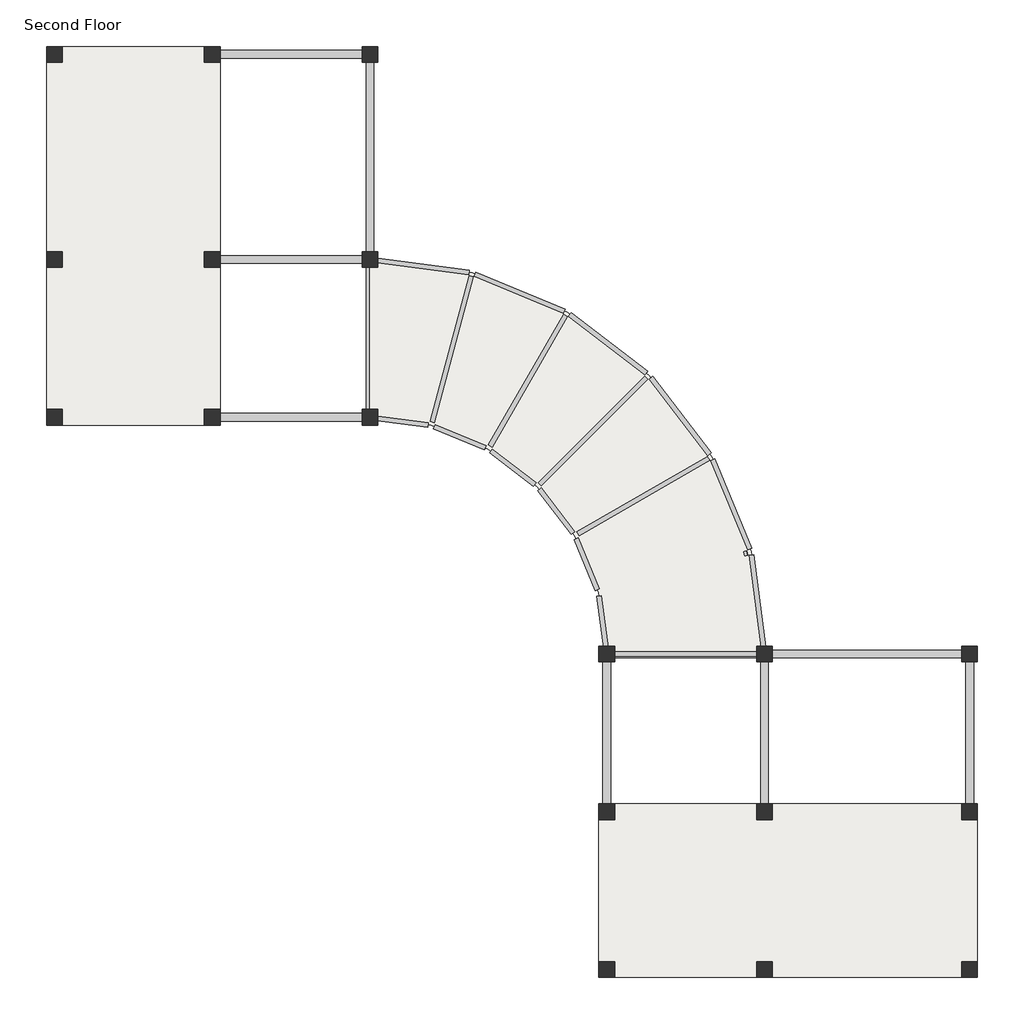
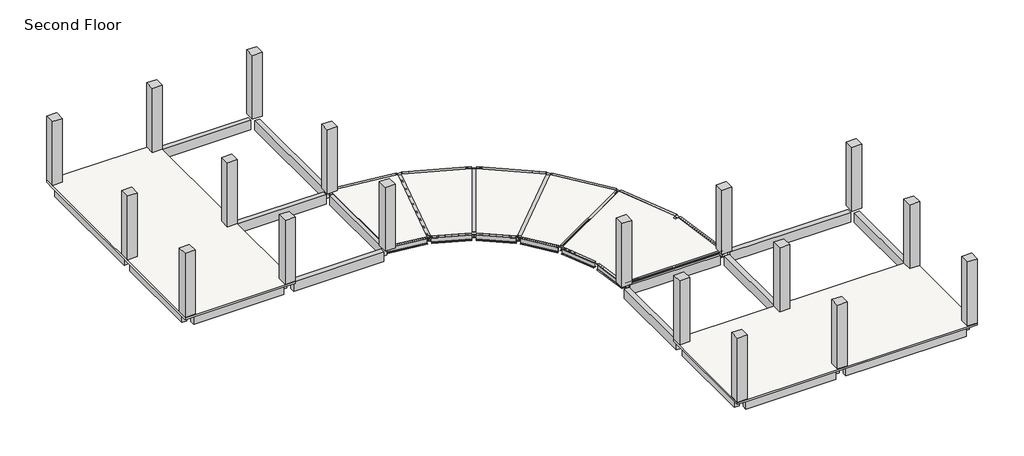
# One storey: 42 beams, 18 columns, 3 slabs.
"""IFC4 building model written with IfcOpenShell, lengths in millimetres."""

from ifc_helpers import new_model, si_unit, frame, origin, place, context, project, spatial, polyline, outline, extrude, faceted_brep, transform, mapped, element, save
from components import w_shapes_w14x30_2e673df6, w_shapes_w14x30_bed481f1, w_shapes_w14x30_237460b9, w_shapes_w14x30_b3bb4f38, w_shapes_w14x30_39967a85, w_shapes_w14x30_db228dd3, w_shapes_w14x30_47131812, w_shapes_w14x30_3b95b5f1, w_shapes_w14x30_4b075543

model = new_model("IFC4")

# Units and contexts
model_context = context("Model", 3, world=origin())
ifc_project = project(units=[si_unit("LENGTHUNIT", "METRE", prefix="MILLI")], contexts=[model_context])

# Site, building, storey
site = spatial("IfcSite", under=ifc_project)
building = spatial("IfcBuilding", under=site)
storey = spatial("IfcBuildingStorey", under=building, Name="Second Floor", Elevation=3048.0)

# Beams
placement = place(None, origin())
element("IfcBeam", 1, ObjectType="Concrete-Rectangular Beam : 12 x 24", at=placement, inside=storey, context=model_context, shape_type="SweptSolid", body=[
    extrude(outline(polyline([(-28941.182411, 12026.6448777), (-28941.182411, 11721.8448777), (-34427.582411, 11721.8448777), (-34427.582411, 12026.6448777), (-28941.182411, 12026.6448777)])), frame((0.0, 0.0, 2438.4), z_axis=(0.0, 0.0, 1.0), x_axis=(1.0, 0.0, 0.0)), (0.0, 0.0, 1.0), 609.6),
])
element("IfcBeam", 2, ObjectType="Concrete-Rectangular Beam : 12 x 24", at=placement, inside=storey, context=model_context, shape_type="SweptSolid", body=[
    extrude(outline(polyline([(-35037.182411, 12026.6448777), (-35037.182411, 11721.8448777), (-40523.582411, 11721.8448777), (-40523.582411, 12026.6448777), (-35037.182411, 12026.6448777)])), frame((0.0, 0.0, 2438.4), z_axis=(0.0, 0.0, 1.0), x_axis=(1.0, 0.0, 0.0)), (0.0, 0.0, 1.0), 609.6),
])
element("IfcBeam", 3, ObjectType="Concrete-Rectangular Beam : 12 x 24", at=placement, inside=storey, context=model_context, shape_type="SweptSolid", body=[
    extrude(outline(polyline([(-28941.182411, -1994.1551223), (-28941.182411, -2298.9551223), (-34427.582411, -2298.9551223), (-34427.582411, -1994.1551223), (-28941.182411, -1994.1551223)])), frame((0.0, 0.0, 2438.4), z_axis=(0.0, 0.0, 1.0), x_axis=(1.0, 0.0, 0.0)), (0.0, 0.0, 1.0), 609.6),
])
element("IfcBeam", 4, ObjectType="Concrete-Rectangular Beam : 12 x 24", at=placement, inside=storey, context=model_context, shape_type="SweptSolid", body=[
    extrude(outline(polyline([(-35037.182411, -1994.1551223), (-35037.182411, -2298.9551223), (-40523.582411, -2298.9551223), (-40523.582411, -1994.1551223), (-35037.182411, -1994.1551223)])), frame((0.0, 0.0, 2438.4), z_axis=(0.0, 0.0, 1.0), x_axis=(1.0, 0.0, 0.0)), (0.0, 0.0, 1.0), 609.6),
])
element("IfcBeam", 5, ObjectType="Concrete-Rectangular Beam : 12 x 24", at=placement, inside=storey, context=model_context, shape_type="SweptSolid", body=[
    extrude(outline(polyline([(-28941.182411, 4101.8448777), (-28941.182411, 3797.0448777), (-34427.582411, 3797.0448777), (-34427.582411, 4101.8448777), (-28941.182411, 4101.8448777)])), frame((0.0, 0.0, 2438.4), z_axis=(0.0, 0.0, 1.0), x_axis=(1.0, 0.0, 0.0)), (0.0, 0.0, 1.0), 609.6),
])
element("IfcBeam", 6, ObjectType="Concrete-Rectangular Beam : 12 x 24", at=placement, inside=storey, context=model_context, shape_type="SweptSolid", body=[
    extrude(outline(polyline([(-35037.182411, 4101.8448777), (-35037.182411, 3797.0448777), (-40523.582411, 3797.0448777), (-40523.582411, 4101.8448777), (-35037.182411, 4101.8448777)])), frame((0.0, 0.0, 2438.4), z_axis=(0.0, 0.0, 1.0), x_axis=(1.0, 0.0, 0.0)), (0.0, 0.0, 1.0), 609.6),
])
element("IfcBeam", 7, ObjectType="Concrete-Rectangular Beam : 12 x 24", at=placement, inside=storey, context=model_context, shape_type="SweptSolid", body=[
    extrude(outline(polyline([(-28483.982411, -1841.7551223), (-28788.782411, -1841.7551223), (-28788.782411, 3644.6448777), (-28483.982411, 3644.6448777), (-28483.982411, -1841.7551223)])), frame((0.0, 0.0, 2438.4), z_axis=(0.0, 0.0, 1.0), x_axis=(1.0, 0.0, 0.0)), (0.0, 0.0, 1.0), 609.6),
])
element("IfcBeam", 8, ObjectType="Concrete-Rectangular Beam : 12 x 24", at=placement, inside=storey, context=model_context, shape_type="SweptSolid", body=[
    extrude(outline(polyline([(-28483.982411, 4254.2448777), (-28788.782411, 4254.2448777), (-28788.782411, 11569.4448777), (-28483.982411, 11569.4448777), (-28483.982411, 4254.2448777)])), frame((0.0, 0.0, 2438.4), z_axis=(0.0, 0.0, 1.0), x_axis=(1.0, 0.0, 0.0)), (0.0, 0.0, 1.0), 609.6),
])
element("IfcBeam", 9, ObjectType="Concrete-Rectangular Beam : 12 x 24", at=placement, inside=storey, context=model_context, shape_type="SweptSolid", body=[
    extrude(outline(polyline([(-34579.982411, 4254.2448777), (-34884.782411, 4254.2448777), (-34884.782411, 11569.4448777), (-34579.982411, 11569.4448777), (-34579.982411, 4254.2448777)])), frame((0.0, 0.0, 2438.4), z_axis=(0.0, 0.0, 1.0), x_axis=(1.0, 0.0, 0.0)), (0.0, 0.0, 1.0), 609.6),
])
element("IfcBeam", 10, ObjectType="Concrete-Rectangular Beam : 12 x 24", at=placement, inside=storey, context=model_context, shape_type="SweptSolid", body=[
    extrude(outline(polyline([(-34579.982411, -1841.7551223), (-34884.782411, -1841.7551223), (-34884.782411, 3644.6448777), (-34579.982411, 3644.6448777), (-34579.982411, -1841.7551223)])), frame((0.0, 0.0, 2438.4), z_axis=(0.0, 0.0, 1.0), x_axis=(1.0, 0.0, 0.0)), (0.0, 0.0, 1.0), 609.6),
])
element("IfcBeam", 11, ObjectType="Concrete-Rectangular Beam : 12 x 24", at=placement, inside=storey, context=model_context, shape_type="SweptSolid", body=[
    extrude(outline(polyline([(-40675.982411, 4254.2448777), (-40980.782411, 4254.2448777), (-40980.782411, 11569.4448777), (-40675.982411, 11569.4448777), (-40675.982411, 4254.2448777)])), frame((0.0, 0.0, 2438.4), z_axis=(0.0, 0.0, 1.0), x_axis=(1.0, 0.0, 0.0)), (0.0, 0.0, 1.0), 609.6),
])
element("IfcBeam", 12, ObjectType="Concrete-Rectangular Beam : 12 x 24", at=placement, inside=storey, context=model_context, shape_type="SweptSolid", body=[
    extrude(outline(polyline([(-40675.982411, -1841.7551223), (-40980.782411, -1841.7551223), (-40980.782411, 3644.6448777), (-40675.982411, 3644.6448777), (-40675.982411, -1841.7551223)])), frame((0.0, 0.0, 2438.4), z_axis=(0.0, 0.0, 1.0), x_axis=(1.0, 0.0, 0.0)), (0.0, 0.0, 1.0), 609.6),
])
element("IfcBeam", 13, ObjectType="Concrete-Rectangular Beam : 12 x 24", at=placement, inside=storey, context=model_context, shape_type="SweptSolid", body=[
    extrude(outline(polyline([(-5623.982411, -11595.3551223), (-5319.182411, -11595.3551223), (-5319.182411, -17081.7551223), (-5623.982411, -17081.7551223), (-5623.982411, -11595.3551223)])), frame((0.0, 0.0, 2438.4), z_axis=(0.0, 0.0, 1.0), x_axis=(1.0, 0.0, 0.0)), (0.0, 0.0, 1.0), 609.6),
])
element("IfcBeam", 14, ObjectType="Concrete-Rectangular Beam : 12 x 24", at=placement, inside=storey, context=model_context, shape_type="SweptSolid", body=[
    extrude(outline(polyline([(-5623.982411, -17691.3551223), (-5319.182411, -17691.3551223), (-5319.182411, -23177.7551223), (-5623.982411, -23177.7551223), (-5623.982411, -17691.3551223)])), frame((0.0, 0.0, 2438.4), z_axis=(0.0, 0.0, 1.0), x_axis=(1.0, 0.0, 0.0)), (0.0, 0.0, 1.0), 609.6),
])
element("IfcBeam", 15, ObjectType="Concrete-Rectangular Beam : 12 x 24", at=placement, inside=storey, context=model_context, shape_type="SweptSolid", body=[
    extrude(outline(polyline([(-19644.782411, -11595.3551223), (-19339.982411, -11595.3551223), (-19339.982411, -17081.7551223), (-19644.782411, -17081.7551223), (-19644.782411, -11595.3551223)])), frame((0.0, 0.0, 2438.4), z_axis=(0.0, 0.0, 1.0), x_axis=(1.0, 0.0, 0.0)), (0.0, 0.0, 1.0), 609.6),
])
element("IfcBeam", 16, ObjectType="Concrete-Rectangular Beam : 12 x 24", at=placement, inside=storey, context=model_context, shape_type="SweptSolid", body=[
    extrude(outline(polyline([(-19644.782411, -17691.3551223), (-19339.982411, -17691.3551223), (-19339.982411, -23177.7551223), (-19644.782411, -23177.7551223), (-19644.782411, -17691.3551223)])), frame((0.0, 0.0, 2438.4), z_axis=(0.0, 0.0, 1.0), x_axis=(1.0, 0.0, 0.0)), (0.0, 0.0, 1.0), 609.6),
])
element("IfcBeam", 17, ObjectType="Concrete-Rectangular Beam : 12 x 24", at=placement, inside=storey, context=model_context, shape_type="SweptSolid", body=[
    extrude(outline(polyline([(-13548.782411, -11595.3551223), (-13243.982411, -11595.3551223), (-13243.982411, -17081.7551223), (-13548.782411, -17081.7551223), (-13548.782411, -11595.3551223)])), frame((0.0, 0.0, 2438.4), z_axis=(0.0, 0.0, 1.0), x_axis=(1.0, 0.0, 0.0)), (0.0, 0.0, 1.0), 609.6),
])
element("IfcBeam", 18, ObjectType="Concrete-Rectangular Beam : 12 x 24", at=placement, inside=storey, context=model_context, shape_type="SweptSolid", body=[
    extrude(outline(polyline([(-13548.782411, -17691.3551223), (-13243.982411, -17691.3551223), (-13243.982411, -23177.7551223), (-13548.782411, -23177.7551223), (-13548.782411, -17691.3551223)])), frame((0.0, 0.0, 2438.4), z_axis=(0.0, 0.0, 1.0), x_axis=(1.0, 0.0, 0.0)), (0.0, 0.0, 1.0), 609.6),
])
element("IfcBeam", 19, ObjectType="Concrete-Rectangular Beam : 12 x 24", at=placement, inside=storey, context=model_context, shape_type="SweptSolid", body=[
    extrude(outline(polyline([(-19187.582411, -11442.9551223), (-19187.582411, -11138.1551223), (-13701.182411, -11138.1551223), (-13701.182411, -11442.9551223), (-19187.582411, -11442.9551223)])), frame((0.0, 0.0, 2438.4), z_axis=(0.0, 0.0, 1.0), x_axis=(1.0, 0.0, 0.0)), (0.0, 0.0, 1.0), 609.6),
])
element("IfcBeam", 20, ObjectType="Concrete-Rectangular Beam : 12 x 24", at=placement, inside=storey, context=model_context, shape_type="SweptSolid", body=[
    extrude(outline(polyline([(-13091.582411, -11442.9551223), (-13091.582411, -11138.1551223), (-5776.382411, -11138.1551223), (-5776.382411, -11442.9551223), (-13091.582411, -11442.9551223)])), frame((0.0, 0.0, 2438.4), z_axis=(0.0, 0.0, 1.0), x_axis=(1.0, 0.0, 0.0)), (0.0, 0.0, 1.0), 609.6),
])
element("IfcBeam", 21, ObjectType="Concrete-Rectangular Beam : 12 x 24", at=placement, inside=storey, context=model_context, shape_type="SweptSolid", body=[
    extrude(outline(polyline([(-13091.582411, -17538.9551223), (-13091.582411, -17234.1551223), (-5776.382411, -17234.1551223), (-5776.382411, -17538.9551223), (-13091.582411, -17538.9551223)])), frame((0.0, 0.0, 2438.4), z_axis=(0.0, 0.0, 1.0), x_axis=(1.0, 0.0, 0.0)), (0.0, 0.0, 1.0), 609.6),
])
element("IfcBeam", 22, ObjectType="Concrete-Rectangular Beam : 12 x 24", at=placement, inside=storey, context=model_context, shape_type="SweptSolid", body=[
    extrude(outline(polyline([(-19187.582411, -17538.9551223), (-19187.582411, -17234.1551223), (-13701.182411, -17234.1551223), (-13701.182411, -17538.9551223), (-19187.582411, -17538.9551223)])), frame((0.0, 0.0, 2438.4), z_axis=(0.0, 0.0, 1.0), x_axis=(1.0, 0.0, 0.0)), (0.0, 0.0, 1.0), 609.6),
])
element("IfcBeam", 23, ObjectType="Concrete-Rectangular Beam : 12 x 24", at=placement, inside=storey, context=model_context, shape_type="SweptSolid", body=[
    extrude(outline(polyline([(-13091.582411, -23634.9551223), (-13091.582411, -23330.1551223), (-5776.382411, -23330.1551223), (-5776.382411, -23634.9551223), (-13091.582411, -23634.9551223)])), frame((0.0, 0.0, 2438.4), z_axis=(0.0, 0.0, 1.0), x_axis=(1.0, 0.0, 0.0)), (0.0, 0.0, 1.0), 609.6),
])
element("IfcBeam", 24, ObjectType="Concrete-Rectangular Beam : 12 x 24", at=placement, inside=storey, context=model_context, shape_type="SweptSolid", body=[
    extrude(outline(polyline([(-19187.582411, -23634.9551223), (-19187.582411, -23330.1551223), (-13701.182411, -23330.1551223), (-13701.182411, -23634.9551223), (-19187.582411, -23634.9551223)])), frame((0.0, 0.0, 2438.4), z_axis=(0.0, 0.0, 1.0), x_axis=(1.0, 0.0, 0.0)), (0.0, 0.0, 1.0), 609.6),
])
w_shapes_w14x30_shape = w_shapes_w14x30_2e673df6(model_context)
element("IfcBeam", 25, ObjectType="W Shapes : W14X30", at=placement, inside=storey, context=model_context, shape_type="MappedRepresentation", body=[
    mapped(w_shapes_w14x30_shape, transform((-16444.382411, -11290.5551223, 2999.74), x_axis=(1.0, 0.0, 0.0), y_axis=(0.0, 1.0, 0.0), z_axis=(0.0, 0.0, 1.0))),
])
w_shapes_w14x30_2_shape = w_shapes_w14x30_bed481f1(model_context)
element("IfcBeam", 26, ObjectType="W Shapes : W14X30", at=placement, inside=storey, context=model_context, shape_type="MappedRepresentation", body=[
    mapped(w_shapes_w14x30_2_shape, transform((-16856.2886653, -8134.0885164, 2936.2780215), x_axis=(0.9657162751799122, 0.258762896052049, 0.020828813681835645), y_axis=(-0.25881904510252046, 0.9659258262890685, 0.0), z_axis=(-0.02011908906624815, -0.005390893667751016, 0.9997830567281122))),
])
w_shapes_w14x30_3_shape = w_shapes_w14x30_237460b9(model_context)
element("IfcBeam", 27, ObjectType="W Shapes : W14X30", at=placement, inside=storey, context=model_context, shape_type="MappedRepresentation", body=[
    mapped(w_shapes_w14x30_3_shape, transform((-27453.0617368, -2302.3422445, 2999.74), x_axis=(0.9914448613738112, -0.1305261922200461, 0.0), y_axis=(0.1305261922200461, 0.9914448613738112, 0.0), z_axis=(0.0, 0.0, 1.0))),
])
w_shapes_w14x30_4_shape = w_shapes_w14x30_b3bb4f38(model_context)
element("IfcBeam", 28, ObjectType="W Shapes : W14X30", at=placement, inside=storey, context=model_context, shape_type="MappedRepresentation", body=[
    mapped(w_shapes_w14x30_4_shape, transform((-25167.0617368, -2914.8740984, 2999.74), x_axis=(0.9238795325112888, -0.3826834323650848, 0.0), y_axis=(0.3826834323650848, 0.9238795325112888, 0.0), z_axis=(0.0, 0.0, 1.0))),
])
element("IfcBeam", 29, ObjectType="W Shapes : W14X30", at=placement, inside=storey, context=model_context, shape_type="MappedRepresentation", body=[
    mapped(w_shapes_w14x30_4_shape, transform((-23117.4902074, -4098.1947726, 2999.74), x_axis=(0.7933533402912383, -0.6087614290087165, 0.0), y_axis=(0.6087614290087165, 0.7933533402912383, 0.0), z_axis=(0.0, 0.0, 1.0))),
])
element("IfcBeam", 30, ObjectType="W Shapes : W14X30", at=placement, inside=storey, context=model_context, shape_type="MappedRepresentation", body=[
    mapped(w_shapes_w14x30_4_shape, transform((-21444.0220613, -5771.6629187, 2999.74), x_axis=(0.6087614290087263, -0.7933533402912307, 0.0), y_axis=(0.7933533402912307, 0.6087614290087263, 0.0), z_axis=(0.0, 0.0, 1.0))),
])
element("IfcBeam", 31, ObjectType="W Shapes : W14X30", at=placement, inside=storey, context=model_context, shape_type="MappedRepresentation", body=[
    mapped(w_shapes_w14x30_4_shape, transform((-20260.7013871, -7821.2344481, 2999.74), x_axis=(0.38268343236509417, -0.923879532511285, 0.0), y_axis=(0.923879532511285, 0.38268343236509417, 0.0), z_axis=(0.0, 0.0, 1.0))),
])
w_shapes_w14x30_5_shape = w_shapes_w14x30_39967a85(model_context)
element("IfcBeam", 32, ObjectType="W Shapes : W14X30", at=placement, inside=storey, context=model_context, shape_type="MappedRepresentation", body=[
    mapped(w_shapes_w14x30_5_shape, transform((-19648.1695332, -10107.2344481, 2999.74), x_axis=(0.13052619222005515, -0.9914448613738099, 0.0), y_axis=(0.9914448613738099, 0.13052619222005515, 0.0), z_axis=(0.0, 0.0, 1.0))),
])
w_shapes_w14x30_6_shape = w_shapes_w14x30_db228dd3(model_context)
element("IfcBeam", 33, ObjectType="W Shapes : W14X30", at=placement, inside=storey, context=model_context, shape_type="MappedRepresentation", body=[
    mapped(w_shapes_w14x30_6_shape, transform((-26664.1812873, 3689.799674, 2999.74), x_axis=(0.9914448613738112, -0.13052619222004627, 0.0), y_axis=(0.13052619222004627, 0.9914448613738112, 0.0), z_axis=(0.0, 0.0, 1.0))),
])
w_shapes_w14x30_7_shape = w_shapes_w14x30_47131812(model_context)
element("IfcBeam", 34, ObjectType="W Shapes : W14X30", at=placement, inside=storey, context=model_context, shape_type="MappedRepresentation", body=[
    mapped(w_shapes_w14x30_7_shape, transform((-22854.1812873, 2668.9132509, 2999.74), x_axis=(0.9238795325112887, -0.382683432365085, 0.0), y_axis=(0.382683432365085, 0.9238795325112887, 0.0), z_axis=(0.0, 0.0, 1.0))),
])
element("IfcBeam", 35, ObjectType="W Shapes : W14X30", at=placement, inside=storey, context=model_context, shape_type="MappedRepresentation", body=[
    mapped(w_shapes_w14x30_7_shape, transform((-19438.2287383, 696.7121272, 2999.74), x_axis=(0.7933533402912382, -0.6087614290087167, 0.0), y_axis=(0.6087614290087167, 0.7933533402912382, 0.0), z_axis=(0.0, 0.0, 1.0))),
])
element("IfcBeam", 36, ObjectType="W Shapes : W14X30", at=placement, inside=storey, context=model_context, shape_type="MappedRepresentation", body=[
    mapped(w_shapes_w14x30_7_shape, transform((-16649.1151615, -2092.4014496, 2999.74), x_axis=(0.6087614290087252, -0.7933533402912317, 0.0), y_axis=(0.7933533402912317, 0.6087614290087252, 0.0), z_axis=(0.0, 0.0, 1.0))),
])
element("IfcBeam", 37, ObjectType="W Shapes : W14X30", at=placement, inside=storey, context=model_context, shape_type="MappedRepresentation", body=[
    mapped(w_shapes_w14x30_7_shape, transform((-14676.9140378, -5508.3539986, 2999.74), x_axis=(0.3826834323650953, -0.9238795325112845, 0.0), y_axis=(0.9238795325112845, 0.3826834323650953, 0.0), z_axis=(0.0, 0.0, 1.0))),
])
w_shapes_w14x30_8_shape = w_shapes_w14x30_3b95b5f1(model_context)
element("IfcBeam", 38, ObjectType="W Shapes : W14X30", at=placement, inside=storey, context=model_context, shape_type="MappedRepresentation", body=[
    mapped(w_shapes_w14x30_8_shape, transform((-13656.0276147, -9318.3539986, 2999.74), x_axis=(0.13052619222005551, -0.9914448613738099, 0.0), y_axis=(0.9914448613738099, 0.13052619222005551, 0.0), z_axis=(0.0, 0.0, 1.0))),
])
w_shapes_w14x30_9_shape = w_shapes_w14x30_4b075543(model_context)
element("IfcBeam", 39, ObjectType="W Shapes : W14X30", at=placement, inside=storey, context=model_context, shape_type="MappedRepresentation", body=[
    mapped(w_shapes_w14x30_9_shape, transform((-18077.800688, -5194.5551223, 2999.74), x_axis=(0.866025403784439, 0.4999999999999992, 0.0), y_axis=(-0.4999999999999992, 0.866025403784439, 0.0), z_axis=(0.0, 0.0, 1.0))),
])
element("IfcBeam", 40, ObjectType="W Shapes : W14X30", at=placement, inside=storey, context=model_context, shape_type="MappedRepresentation", body=[
    mapped(w_shapes_w14x30_9_shape, transform((-20015.3365348, -2669.5092461, 2999.74), x_axis=(0.7071067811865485, 0.7071067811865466, 0.0), y_axis=(-0.7071067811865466, 0.7071067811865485, 0.0), z_axis=(0.0, 0.0, 1.0))),
])
element("IfcBeam", 41, ObjectType="W Shapes : W14X30", at=placement, inside=storey, context=model_context, shape_type="MappedRepresentation", body=[
    mapped(w_shapes_w14x30_9_shape, transform((-22540.382411, -731.9733993, 2999.74), x_axis=(0.5000000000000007, 0.8660254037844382, 0.0), y_axis=(-0.8660254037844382, 0.5000000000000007, 0.0), z_axis=(0.0, 0.0, 1.0))),
])
element("IfcBeam", 42, ObjectType="W Shapes : W14X30", at=placement, inside=storey, context=model_context, shape_type="MappedRepresentation", body=[
    mapped(w_shapes_w14x30_9_shape, transform((-25480.8606131, 486.0125518, 2999.74), x_axis=(0.2588190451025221, 0.9659258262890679, 0.0), y_axis=(-0.9659258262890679, 0.2588190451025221, 0.0), z_axis=(0.0, 0.0, 1.0))),
])

# Columns
element("IfcColumn", 43, ObjectType="Concrete-Rectangular-Column : 24 x 24", at=placement, inside=storey, context=model_context, shape_type="SweptSolid", body=[
    extrude(outline(polyline([(-28331.582411, -1841.7551223), (-28331.582411, -2451.3551223), (-28941.182411, -2451.3551223), (-28941.182411, -1841.7551223), (-28331.582411, -1841.7551223)])), frame((0.0, 0.0, 3200.4), z_axis=(0.0, 0.0, 1.0), x_axis=(1.0, 0.0, 0.0)), (0.0, 0.0, 1.0), 4114.8),
])
element("IfcColumn", 44, ObjectType="Concrete-Rectangular-Column : 24 x 24", at=placement, inside=storey, context=model_context, shape_type="SweptSolid", body=[
    extrude(outline(polyline([(-28331.582411, 4254.2448777), (-28331.582411, 3644.6448777), (-28941.182411, 3644.6448777), (-28941.182411, 4254.2448777), (-28331.582411, 4254.2448777)])), frame((0.0, 0.0, 3200.4), z_axis=(0.0, 0.0, 1.0), x_axis=(1.0, 0.0, 0.0)), (0.0, 0.0, 1.0), 4114.8),
])
element("IfcColumn", 45, ObjectType="Concrete-Rectangular-Column : 24 x 24", at=placement, inside=storey, context=model_context, shape_type="SweptSolid", body=[
    extrude(outline(polyline([(-35037.182411, -2451.3551223), (-35037.182411, -1841.7551223), (-34427.582411, -1841.7551223), (-34427.582411, -2451.3551223), (-35037.182411, -2451.3551223)])), frame((0.0, 0.0, 3200.4), z_axis=(0.0, 0.0, 1.0), x_axis=(1.0, 0.0, 0.0)), (0.0, 0.0, 1.0), 4114.8),
])
element("IfcColumn", 46, ObjectType="Concrete-Rectangular-Column : 24 x 24", at=placement, inside=storey, context=model_context, shape_type="SweptSolid", body=[
    extrude(outline(polyline([(-35037.182411, 3644.6448777), (-35037.182411, 4254.2448777), (-34427.582411, 4254.2448777), (-34427.582411, 3644.6448777), (-35037.182411, 3644.6448777)])), frame((0.0, 0.0, 3200.4), z_axis=(0.0, 0.0, 1.0), x_axis=(1.0, 0.0, 0.0)), (0.0, 0.0, 1.0), 4114.8),
])
element("IfcColumn", 47, ObjectType="Concrete-Rectangular-Column : 24 x 24", at=placement, inside=storey, context=model_context, shape_type="SweptSolid", body=[
    extrude(outline(polyline([(-41133.182411, -2451.3551223), (-41133.182411, -1841.7551223), (-40523.582411, -1841.7551223), (-40523.582411, -2451.3551223), (-41133.182411, -2451.3551223)])), frame((0.0, 0.0, 3200.4), z_axis=(0.0, 0.0, 1.0), x_axis=(1.0, 0.0, 0.0)), (0.0, 0.0, 1.0), 4114.8),
])
element("IfcColumn", 48, ObjectType="Concrete-Rectangular-Column : 24 x 24", at=placement, inside=storey, context=model_context, shape_type="SweptSolid", body=[
    extrude(outline(polyline([(-41133.182411, 3644.6448777), (-41133.182411, 4254.2448777), (-40523.582411, 4254.2448777), (-40523.582411, 3644.6448777), (-41133.182411, 3644.6448777)])), frame((0.0, 0.0, 3200.4), z_axis=(0.0, 0.0, 1.0), x_axis=(1.0, 0.0, 0.0)), (0.0, 0.0, 1.0), 4114.8),
])
element("IfcColumn", 49, ObjectType="Concrete-Rectangular-Column : 24 x 24", at=placement, inside=storey, context=model_context, shape_type="SweptSolid", body=[
    extrude(outline(polyline([(-28941.182411, 11569.4448777), (-28941.182411, 12179.0448777), (-28331.582411, 12179.0448777), (-28331.582411, 11569.4448777), (-28941.182411, 11569.4448777)])), frame((0.0, 0.0, 3200.4), z_axis=(0.0, 0.0, 1.0), x_axis=(1.0, 0.0, 0.0)), (0.0, 0.0, 1.0), 4114.8),
])
element("IfcColumn", 50, ObjectType="Concrete-Rectangular-Column : 24 x 24", at=placement, inside=storey, context=model_context, shape_type="SweptSolid", body=[
    extrude(outline(polyline([(-35037.182411, 11569.4448777), (-35037.182411, 12179.0448777), (-34427.582411, 12179.0448777), (-34427.582411, 11569.4448777), (-35037.182411, 11569.4448777)])), frame((0.0, 0.0, 3200.4), z_axis=(0.0, 0.0, 1.0), x_axis=(1.0, 0.0, 0.0)), (0.0, 0.0, 1.0), 4114.8),
])
element("IfcColumn", 51, ObjectType="Concrete-Rectangular-Column : 24 x 24", at=placement, inside=storey, context=model_context, shape_type="SweptSolid", body=[
    extrude(outline(polyline([(-41133.182411, 11569.4448777), (-41133.182411, 12179.0448777), (-40523.582411, 12179.0448777), (-40523.582411, 11569.4448777), (-41133.182411, 11569.4448777)])), frame((0.0, 0.0, 3200.4), z_axis=(0.0, 0.0, 1.0), x_axis=(1.0, 0.0, 0.0)), (0.0, 0.0, 1.0), 4114.8),
])
element("IfcColumn", 52, ObjectType="Concrete-Rectangular-Column : 24 x 24", at=placement, inside=storey, context=model_context, shape_type="SweptSolid", body=[
    extrude(outline(polyline([(-19187.582411, -10985.7551223), (-19187.582411, -11595.3551223), (-19797.182411, -11595.3551223), (-19797.182411, -10985.7551223), (-19187.582411, -10985.7551223)])), frame((0.0, 0.0, 3200.4), z_axis=(0.0, 0.0, 1.0), x_axis=(1.0, 0.0, 0.0)), (0.0, 0.0, 1.0), 4114.8),
])
element("IfcColumn", 53, ObjectType="Concrete-Rectangular-Column : 24 x 24", at=placement, inside=storey, context=model_context, shape_type="SweptSolid", body=[
    extrude(outline(polyline([(-13091.582411, -10985.7551223), (-13091.582411, -11595.3551223), (-13701.182411, -11595.3551223), (-13701.182411, -10985.7551223), (-13091.582411, -10985.7551223)])), frame((0.0, 0.0, 3200.4), z_axis=(0.0, 0.0, 1.0), x_axis=(1.0, 0.0, 0.0)), (0.0, 0.0, 1.0), 4114.8),
])
element("IfcColumn", 54, ObjectType="Concrete-Rectangular-Column : 24 x 24", at=placement, inside=storey, context=model_context, shape_type="SweptSolid", body=[
    extrude(outline(polyline([(-19797.182411, -17691.3551223), (-19797.182411, -17081.7551223), (-19187.582411, -17081.7551223), (-19187.582411, -17691.3551223), (-19797.182411, -17691.3551223)])), frame((0.0, 0.0, 3200.4), z_axis=(0.0, 0.0, 1.0), x_axis=(1.0, 0.0, 0.0)), (0.0, 0.0, 1.0), 4114.8),
])
element("IfcColumn", 55, ObjectType="Concrete-Rectangular-Column : 24 x 24", at=placement, inside=storey, context=model_context, shape_type="SweptSolid", body=[
    extrude(outline(polyline([(-13701.182411, -17691.3551223), (-13701.182411, -17081.7551223), (-13091.582411, -17081.7551223), (-13091.582411, -17691.3551223), (-13701.182411, -17691.3551223)])), frame((0.0, 0.0, 3200.4), z_axis=(0.0, 0.0, 1.0), x_axis=(1.0, 0.0, 0.0)), (0.0, 0.0, 1.0), 4114.8),
])
element("IfcColumn", 56, ObjectType="Concrete-Rectangular-Column : 24 x 24", at=placement, inside=storey, context=model_context, shape_type="SweptSolid", body=[
    extrude(outline(polyline([(-19797.182411, -23787.3551223), (-19797.182411, -23177.7551223), (-19187.582411, -23177.7551223), (-19187.582411, -23787.3551223), (-19797.182411, -23787.3551223)])), frame((0.0, 0.0, 3200.4), z_axis=(0.0, 0.0, 1.0), x_axis=(1.0, 0.0, 0.0)), (0.0, 0.0, 1.0), 4114.8),
])
element("IfcColumn", 57, ObjectType="Concrete-Rectangular-Column : 24 x 24", at=placement, inside=storey, context=model_context, shape_type="SweptSolid", body=[
    extrude(outline(polyline([(-13701.182411, -23787.3551223), (-13701.182411, -23177.7551223), (-13091.582411, -23177.7551223), (-13091.582411, -23787.3551223), (-13701.182411, -23787.3551223)])), frame((0.0, 0.0, 3200.4), z_axis=(0.0, 0.0, 1.0), x_axis=(1.0, 0.0, 0.0)), (0.0, 0.0, 1.0), 4114.8),
])
element("IfcColumn", 58, ObjectType="Concrete-Rectangular-Column : 24 x 24", at=placement, inside=storey, context=model_context, shape_type="SweptSolid", body=[
    extrude(outline(polyline([(-5776.382411, -11595.3551223), (-5776.382411, -10985.7551223), (-5166.782411, -10985.7551223), (-5166.782411, -11595.3551223), (-5776.382411, -11595.3551223)])), frame((0.0, 0.0, 3200.4), z_axis=(0.0, 0.0, 1.0), x_axis=(1.0, 0.0, 0.0)), (0.0, 0.0, 1.0), 4114.8),
])
element("IfcColumn", 59, ObjectType="Concrete-Rectangular-Column : 24 x 24", at=placement, inside=storey, context=model_context, shape_type="SweptSolid", body=[
    extrude(outline(polyline([(-5776.382411, -17691.3551223), (-5776.382411, -17081.7551223), (-5166.782411, -17081.7551223), (-5166.782411, -17691.3551223), (-5776.382411, -17691.3551223)])), frame((0.0, 0.0, 3200.4), z_axis=(0.0, 0.0, 1.0), x_axis=(1.0, 0.0, 0.0)), (0.0, 0.0, 1.0), 4114.8),
])
element("IfcColumn", 60, ObjectType="Concrete-Rectangular-Column : 24 x 24", at=placement, inside=storey, context=model_context, shape_type="SweptSolid", body=[
    extrude(outline(polyline([(-5776.382411, -23787.3551223), (-5776.382411, -23177.7551223), (-5166.782411, -23177.7551223), (-5166.782411, -23787.3551223), (-5776.382411, -23787.3551223)])), frame((0.0, 0.0, 3200.4), z_axis=(0.0, 0.0, 1.0), x_axis=(1.0, 0.0, 0.0)), (0.0, 0.0, 1.0), 4114.8),
])

# Slabs
element("IfcSlab", 61, ObjectType="1 1/2\" Metal Roof Deck", at=placement, inside=storey, context=model_context, shape_type="SweptSolid", body=[
    extrude(outline(polyline([(-28636.382411, 3949.4448777), (-24691.9801636, 3430.1544704), (-21016.382411, 1907.6720314), (-17860.0750657, -514.247777), (-15438.1552573, -3670.5551223), (-13915.6728183, -7346.1528749), (-13396.382411, -11290.5551223), (-19492.382411, -11290.5551223), (-19803.9566554, -8923.9137739), (-20717.4461188, -6718.5551223), (-22170.5980038, -4824.7707151), (-24064.382411, -3371.6188301), (-26269.7410626, -2458.1293667), (-28636.382411, -2146.5551223), (-28636.382411, 3949.4448777)])), frame((0.0, 0.0, 3130.55), z_axis=(0.0, 0.0, 1.0), x_axis=(1.0, 0.0, 0.0)), (0.0, 0.0, 1.0), 38.1),
])
element("IfcSlab", 62, ObjectType="LW Concrete on Metal Deck", at=placement, inside=storey, context=model_context, shape_type="Brep", body=[
    faceted_brep([(-34427.582411, 12179.0448777, 3048.0), (-34427.582411, 11569.4448777, 3048.0), (-34427.582411, 4254.2448777, 3048.0), (-34427.582411, 3644.6448777, 3048.0), (-34427.582411, -1841.7551223, 3048.0), (-34427.582411, -2451.3551223, 3048.0), (-35037.182411, -2451.3551223, 3048.0), (-40523.582411, -2451.3551223, 3048.0), (-41133.182411, -2451.3551223, 3048.0), (-41133.182411, -1841.7551223, 3048.0), (-41133.182411, 3644.6448777, 3048.0), (-41133.182411, 4254.2448777, 3048.0), (-41133.182411, 11569.4448777, 3048.0), (-41133.182411, 12179.0448777, 3048.0), (-40523.582411, 12179.0448777, 3048.0), (-35037.182411, 12179.0448777, 3048.0), (-34427.582411, 12179.0448777, 3168.65), (-41133.182411, 12179.0448777, 3168.65), (-41133.182411, -2451.3551223, 3168.65), (-34427.582411, -2451.3551223, 3168.65)], [[[0, 1, 2, 3, 4, 5, 6, 7, 8, 9, 10, 11, 12, 13, 14, 15]], [[16, 17, 18, 19]], [[5, 4, 3, 2, 1, 0, 16, 19]], [[8, 7, 6, 5, 19, 18]], [[13, 12, 11, 10, 9, 8, 18, 17]], [[0, 15, 14, 13, 17, 16]]]),
])
element("IfcSlab", 63, ObjectType="LW Concrete on Metal Deck", at=placement, inside=storey, context=model_context, shape_type="Brep", body=[
    faceted_brep([(-5166.782411, -17081.7551223, 3048.0), (-5166.782411, -17691.3551223, 3048.0), (-5166.782411, -23177.7551223, 3048.0), (-5166.782411, -23787.3551223, 3048.0), (-5776.382411, -23787.3551223, 3048.0), (-13091.582411, -23787.3551223, 3048.0), (-13701.182411, -23787.3551223, 3048.0), (-19187.582411, -23787.3551223, 3048.0), (-19797.182411, -23787.3551223, 3048.0), (-19797.182411, -23177.7551223, 3048.0), (-19797.182411, -17691.3551223, 3048.0), (-19797.182411, -17081.7551223, 3048.0), (-19187.582411, -17081.7551223, 3048.0), (-13701.182411, -17081.7551223, 3048.0), (-13091.582411, -17081.7551223, 3048.0), (-5776.382411, -17081.7551223, 3048.0), (-5166.782411, -17081.7551223, 3168.65), (-19797.182411, -17081.7551223, 3168.65), (-19797.182411, -23787.3551223, 3168.65), (-5166.782411, -23787.3551223, 3168.65)], [[[0, 1, 2, 3, 4, 5, 6, 7, 8, 9, 10, 11, 12, 13, 14, 15]], [[16, 17, 18, 19]], [[0, 15, 14, 13, 12, 11, 17, 16]], [[11, 10, 9, 8, 18, 17]], [[8, 7, 6, 5, 4, 3, 19, 18]], [[3, 2, 1, 0, 16, 19]]]),
])

save(model, "model.ifc")
